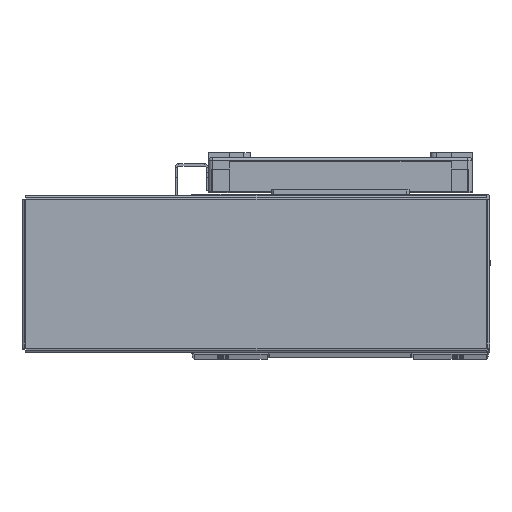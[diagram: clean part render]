
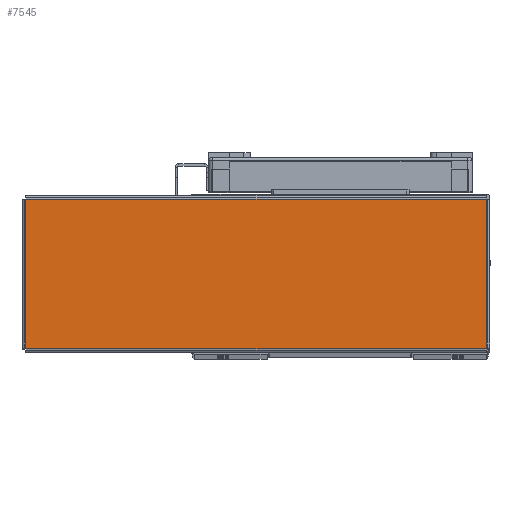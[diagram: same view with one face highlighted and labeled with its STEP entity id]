
A CAD part, top view. The second image highlights one B-rep face of the part: STEP entity #7545.
In plain terms, the highlighted planar face has unit normal (0, 0, 1) as drawn and (0, -1, 0) by its records, which use the part's own axes.
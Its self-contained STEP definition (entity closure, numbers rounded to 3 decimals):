
#4981 = FACE_OUTER_BOUND ( 'NONE', #46269, .T. ) ;
#7545 = ADVANCED_FACE ( 'NONE', ( #4981 ), #27511, .F. ) ;
#8546 = VERTEX_POINT ( 'NONE', #33771 ) ;
#8564 = VERTEX_POINT ( 'NONE', #33828 ) ;
#8582 = VERTEX_POINT ( 'NONE', #33796 ) ;
#8586 = VERTEX_POINT ( 'NONE', #33785 ) ;
#12694 = EDGE_CURVE ( 'NONE', #8564, #8586, #52693, .T. ) ;
#12708 = EDGE_CURVE ( 'NONE', #8582, #8546, #52732, .T. ) ;
#12778 = EDGE_CURVE ( 'NONE', #8546, #8564, #52721, .T. ) ;
#12847 = EDGE_CURVE ( 'NONE', #8586, #8582, #52780, .T. ) ;
#26283 = AXIS2_PLACEMENT_3D ( 'NONE', #27501, #27454, #27496 ) ;
#27454 = DIRECTION ( 'NONE',  ( 0., 1., 0. ) ) ;
#27496 = DIRECTION ( 'NONE',  ( 0., 0., 1. ) ) ;
#27501 = CARTESIAN_POINT ( 'NONE',  ( 0., -1., 0. ) ) ;
#27511 = PLANE ( 'NONE',  #26283 ) ;
#33771 = CARTESIAN_POINT ( 'NONE',  ( 103.763, -1., -33.763 ) ) ;
#33785 = CARTESIAN_POINT ( 'NONE',  ( -103.763, -1., 33.763 ) ) ;
#33796 = CARTESIAN_POINT ( 'NONE',  ( -103.763, -1., -33.763 ) ) ;
#33828 = CARTESIAN_POINT ( 'NONE',  ( 103.763, -1., 33.763 ) ) ;
#46269 = EDGE_LOOP ( 'NONE', ( #49051, #49043, #48941, #49038 ) ) ;
#48941 = ORIENTED_EDGE ( 'NONE', *, *, #12708, .T. ) ;
#49038 = ORIENTED_EDGE ( 'NONE', *, *, #12778, .T. ) ;
#49043 = ORIENTED_EDGE ( 'NONE', *, *, #12847, .T. ) ;
#49051 = ORIENTED_EDGE ( 'NONE', *, *, #12694, .T. ) ;
#51460 = CARTESIAN_POINT ( 'NONE',  ( 103.793, -1., 33.763 ) ) ;
#51471 = DIRECTION ( 'NONE',  ( -1., 0., 0. ) ) ;
#51472 = CARTESIAN_POINT ( 'NONE',  ( -103.793, -1., -33.763 ) ) ;
#51474 = DIRECTION ( 'NONE',  ( 1., 0., 0. ) ) ;
#52693 = LINE ( 'NONE', #51460, #52696 ) ;
#52696 = VECTOR ( 'NONE', #51471, 1000. ) ;
#52721 = LINE ( 'NONE', #54214, #52722 ) ;
#52722 = VECTOR ( 'NONE', #54230, 1000. ) ;
#52732 = LINE ( 'NONE', #51472, #52746 ) ;
#52746 = VECTOR ( 'NONE', #51474, 1000. ) ;
#52780 = LINE ( 'NONE', #54460, #52819 ) ;
#52819 = VECTOR ( 'NONE', #54514, 1000. ) ;
#54214 = CARTESIAN_POINT ( 'NONE',  ( 103.763, -1., -33.793 ) ) ;
#54230 = DIRECTION ( 'NONE',  ( 0., 0., 1. ) ) ;
#54460 = CARTESIAN_POINT ( 'NONE',  ( -103.763, -1., 33.793 ) ) ;
#54514 = DIRECTION ( 'NONE',  ( 0., 0., -1. ) ) ;
